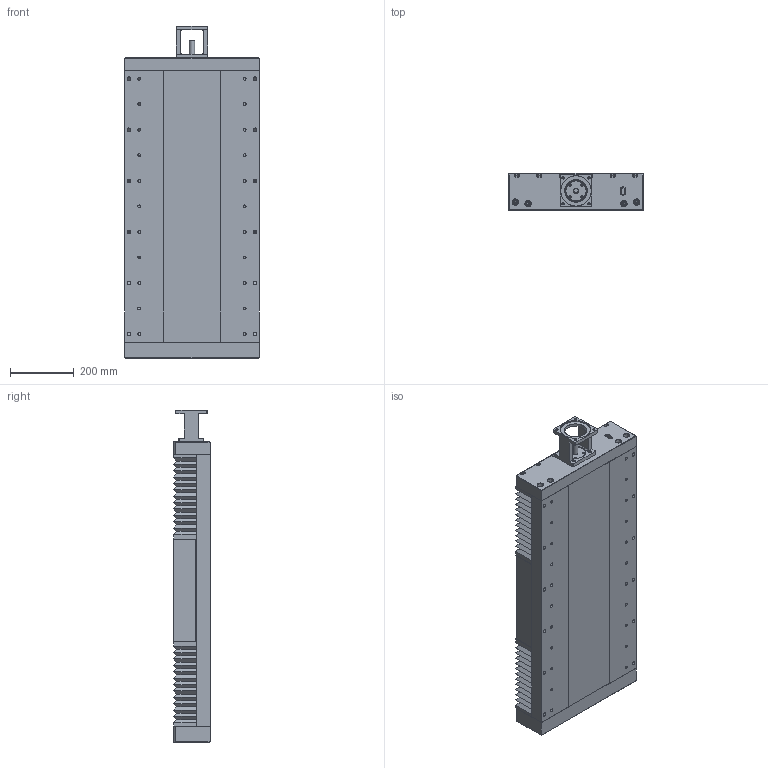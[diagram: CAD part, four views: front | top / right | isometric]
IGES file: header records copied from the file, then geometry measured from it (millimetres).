
Start section: SolidWorks IGES file using analytic representation for surfaces
Bounding box: 420 x 115 x 1040 mm (x, y, z)
Surface area: 2328152 mm2 (no closed solid volume)
Topology: 0 solids, 0 shells, 1211 faces, 16890 edges, 16790 vertices
Faces by surface type: revolution 751, bspline 460
